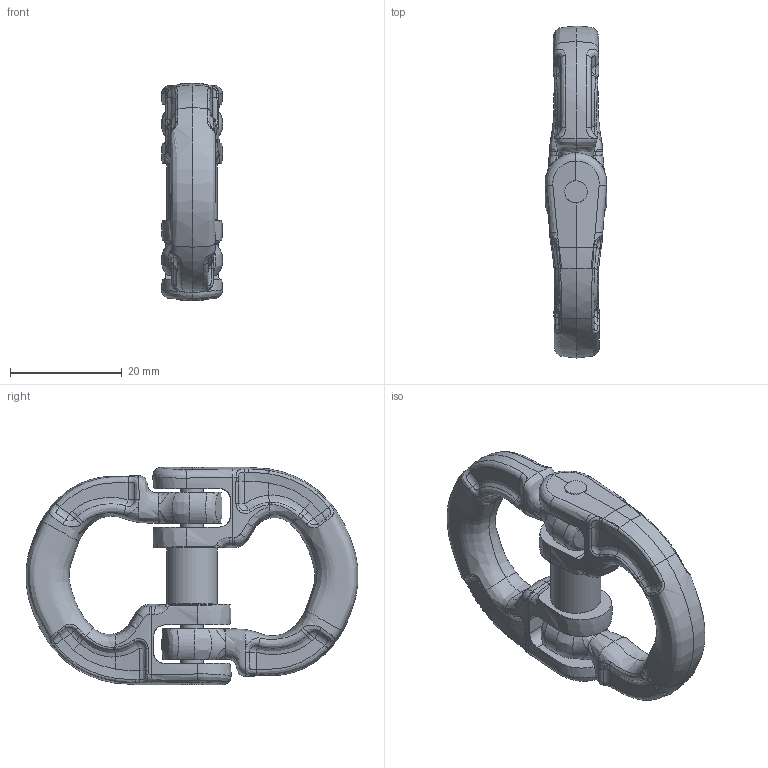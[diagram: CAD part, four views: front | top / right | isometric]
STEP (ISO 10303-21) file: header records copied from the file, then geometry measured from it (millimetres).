
FILE_DESCRIPTION(/* description */ (''),/* implementation_level */ '2;1');
FILE_NAME(/* name */ 'CW 6 Kundenmodell',/* time_stamp */ '2010-01-04T10:39:00+01:00',/* author */ (''),/* organization */ (''),/* preprocessor_version */ 'ST-DEVELOPER v9',/* originating_system */ 'UGS - NX 4.0',/* authorisation */ '');
FILE_SCHEMA (('AUTOMOTIVE_DESIGN { 1 0 10303 214 1 1 1 1 }'));
Length unit declared in the file: millimetre
Products named in the file (1): rit3D44pk2p
Bounding box: 11.01 x 59.48 x 39 mm (x, y, z)
Volume: 9773.7 mm3; surface area: 6683.3 mm2
Topology: 4 solids, 4 shells, 399 faces, 956 edges, 551 vertices
Faces by surface type: bspline 274, plane 42, cylinder 35, sphere 28, torus 12, cone 8
Full cylindrical faces by diameter (mm): 4 x8, 9 x1
Entity records: 36162 total; most frequent: CARTESIAN_POINT 29212, ORIENTED_EDGE 1860, EDGE_CURVE 930, DIRECTION 808, B_SPLINE_CURVE_WITH_KNOTS 598, VERTEX_POINT 546, EDGE_LOOP 420, ADVANCED_FACE 399
